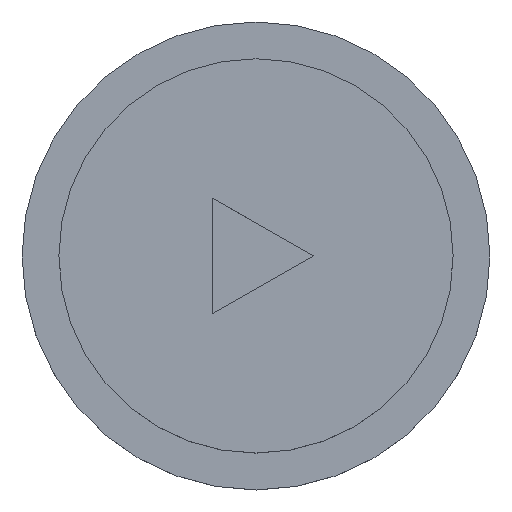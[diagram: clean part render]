
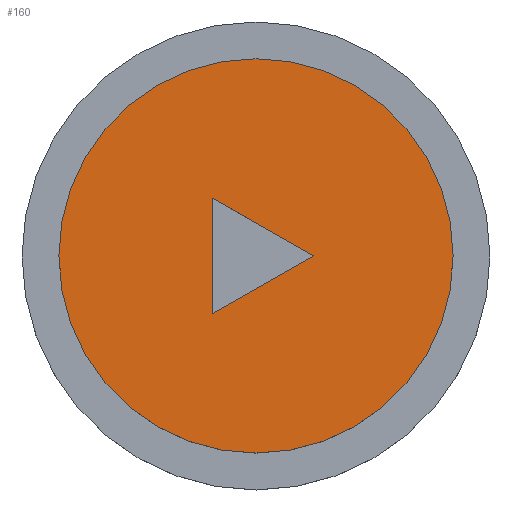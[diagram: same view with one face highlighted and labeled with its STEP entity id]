
A CAD part, top view. The second image highlights one B-rep face of the part: STEP entity #160.
In plain terms, the highlighted planar face has unit normal (0, 0, 1).
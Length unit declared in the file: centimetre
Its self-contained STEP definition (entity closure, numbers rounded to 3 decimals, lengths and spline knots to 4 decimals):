
#17=FACE_BOUND('',#51,.T.);
#23=CIRCLE('',#189,1.365);
#37=FACE_OUTER_BOUND('',#50,.T.);
#50=EDGE_LOOP('',(#138));
#51=EDGE_LOOP('',(#139,#140,#141));
#52=LINE('',#244,#64);
#56=LINE('',#252,#68);
#59=LINE('',#257,#71);
#64=VECTOR('',#196,1.);
#68=VECTOR('',#202,1.);
#71=VECTOR('',#207,1.);
#76=VERTEX_POINT('',#242);
#77=VERTEX_POINT('',#243);
#80=VERTEX_POINT('',#251);
#87=VERTEX_POINT('',#277);
#88=EDGE_CURVE('',#76,#77,#52,.T.);
#92=EDGE_CURVE('',#80,#76,#56,.T.);
#95=EDGE_CURVE('',#77,#80,#59,.T.);
#104=EDGE_CURVE('',#87,#87,#23,.T.);
#138=ORIENTED_EDGE('',*,*,#104,.T.);
#139=ORIENTED_EDGE('',*,*,#88,.T.);
#140=ORIENTED_EDGE('',*,*,#95,.T.);
#141=ORIENTED_EDGE('',*,*,#92,.T.);
#149=PLANE('',#191);
#160=ADVANCED_FACE('',(#37,#17),#149,.T.);
#189=AXIS2_PLACEMENT_3D('',#278,#233,#234);
#191=AXIS2_PLACEMENT_3D('',#281,#238,#239);
#196=DIRECTION('',(-0.868,-0.496,0.));
#202=DIRECTION('',(0.868,-0.496,0.));
#207=DIRECTION('',(0.,1.,0.));
#233=DIRECTION('center_axis',(0.,0.,1.));
#234=DIRECTION('ref_axis',(1.,0.,0.));
#238=DIRECTION('center_axis',(0.,0.,1.));
#239=DIRECTION('ref_axis',(1.,0.,0.));
#242=CARTESIAN_POINT('',(0.4,-4.7,0.));
#243=CARTESIAN_POINT('',(-0.3,-5.1,0.));
#244=CARTESIAN_POINT('',(0.2492,-4.7862,0.));
#251=CARTESIAN_POINT('',(-0.3,-4.3,0.));
#252=CARTESIAN_POINT('',(-0.1008,-4.4138,0.));
#257=CARTESIAN_POINT('',(-0.3,-4.9,0.));
#277=CARTESIAN_POINT('',(-1.365,-4.7,0.));
#278=CARTESIAN_POINT('Origin',(0.,-4.7,0.));
#281=CARTESIAN_POINT('Origin',(0.,-4.7,0.));
